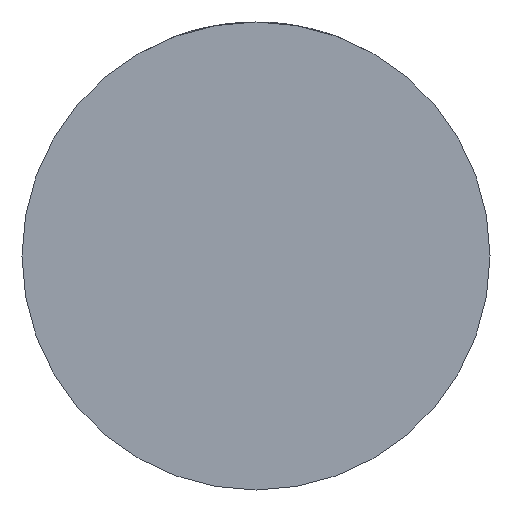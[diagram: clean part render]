
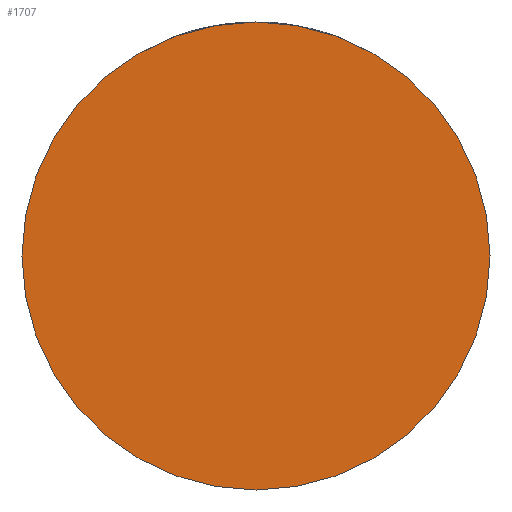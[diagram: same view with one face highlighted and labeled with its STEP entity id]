
A CAD part, front view. The second image highlights one B-rep face of the part: STEP entity #1707.
In plain terms, the highlighted planar face has unit normal (0, -1, 0).
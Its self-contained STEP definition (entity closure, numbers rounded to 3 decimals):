
#41 = CARTESIAN_POINT ( 'NONE',  ( 0., -20., 0. ) ) ;
#65 = DIRECTION ( 'NONE',  ( 0., 1., 0. ) ) ;
#143 = VERTEX_POINT ( 'NONE', #1647 ) ;
#273 = EDGE_CURVE ( 'NONE', #3236, #143, #461, .T. ) ;
#461 = CIRCLE ( 'NONE', #4189, 27.5 ) ;
#919 = CARTESIAN_POINT ( 'NONE',  ( 0., -20., 0. ) ) ;
#923 = DIRECTION ( 'NONE',  ( -1., 0., 0. ) ) ;
#996 = CARTESIAN_POINT ( 'NONE',  ( 27.5, -20., 0. ) ) ;
#1334 = FACE_OUTER_BOUND ( 'NONE', #1397, .T. ) ;
#1397 = EDGE_LOOP ( 'NONE', ( #4568, #5105 ) ) ;
#1647 = CARTESIAN_POINT ( 'NONE',  ( -27.5, -20., 0. ) ) ;
#1707 = ADVANCED_FACE ( 'NONE', ( #1334 ), #1796, .T. ) ;
#1749 = CARTESIAN_POINT ( 'NONE',  ( 0., -20., 0. ) ) ;
#1796 = PLANE ( 'NONE',  #4422 ) ;
#2128 = DIRECTION ( 'NONE',  ( 0., 1., 0. ) ) ;
#2586 = DIRECTION ( 'NONE',  ( 1., 0., 0. ) ) ;
#2668 = EDGE_CURVE ( 'NONE', #143, #3236, #2874, .T. ) ;
#2874 = CIRCLE ( 'NONE', #4257, 27.5 ) ;
#2940 = DIRECTION ( 'NONE',  ( 0., -1., 0. ) ) ;
#3236 = VERTEX_POINT ( 'NONE', #996 ) ;
#3839 = DIRECTION ( 'NONE',  ( -1., 0., 0. ) ) ;
#4189 = AXIS2_PLACEMENT_3D ( 'NONE', #41, #65, #3839 ) ;
#4257 = AXIS2_PLACEMENT_3D ( 'NONE', #1749, #2128, #923 ) ;
#4422 = AXIS2_PLACEMENT_3D ( 'NONE', #919, #2940, #2586 ) ;
#4568 = ORIENTED_EDGE ( 'NONE', *, *, #2668, .F. ) ;
#5105 = ORIENTED_EDGE ( 'NONE', *, *, #273, .F. ) ;
